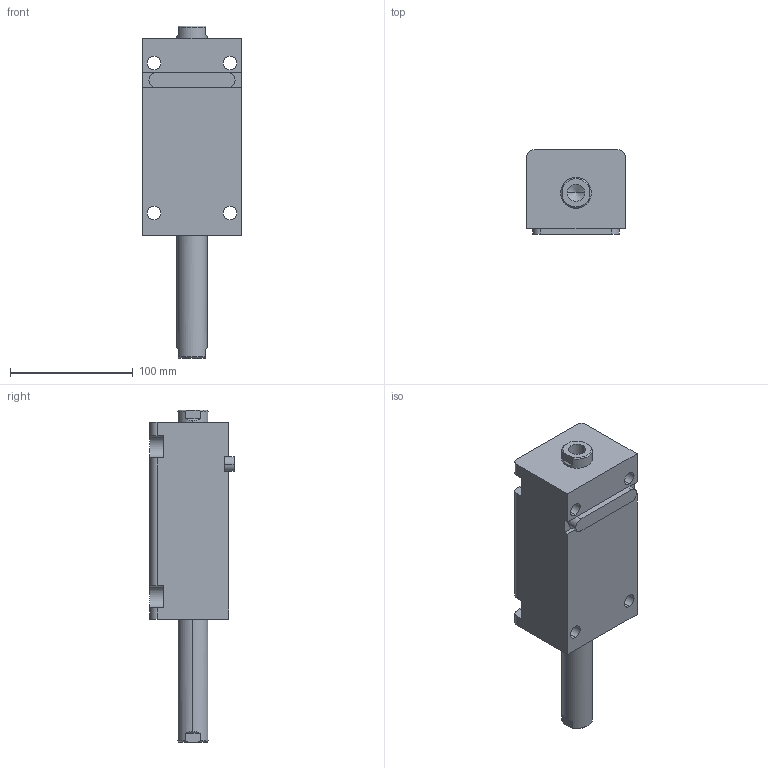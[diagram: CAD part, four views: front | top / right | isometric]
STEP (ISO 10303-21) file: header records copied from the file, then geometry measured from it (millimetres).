
FILE_DESCRIPTION (( 'STEP AP203' ), '1' );
FILE_NAME ('HTB-LW40-90N.STEP', '2019-10-09T07:59:08', ( '微软用户' ), ( '微软中国' ), 'SwSTEP 2.0', 'SolidWorks 2012', '' );
FILE_SCHEMA (( 'CONFIG_CONTROL_DESIGN' ));
Length unit declared in the file: millimetre
Products named in the file (4): HTB-LW40-90N; HTB-LA40-瑩; HTB-LW40-90N活塞杆; HTB-LW40-90掛极
Assembly tree (3 placements, depth 2):
  HTB-LW40-90N
    HTB-LW40-90掛极
    HTB-LW40-90N活塞杆
    HTB-LA40-瑩
Bounding box: 80 x 68.5 x 270 mm (x, y, z)
Volume: 762773.6 mm3; surface area: 111901.4 mm2
Topology: 3 solids, 3 shells, 105 faces, 261 edges, 168 vertices
Faces by surface type: plane 44, cylinder 41, cone 12, torus 8
Entity records: 3567 total; most frequent: CARTESIAN_POINT 588, DIRECTION 573, ORIENTED_EDGE 514, EDGE_CURVE 257, AXIS2_PLACEMENT_3D 221, VERTEX_POINT 168, LINE 131, VECTOR 131
